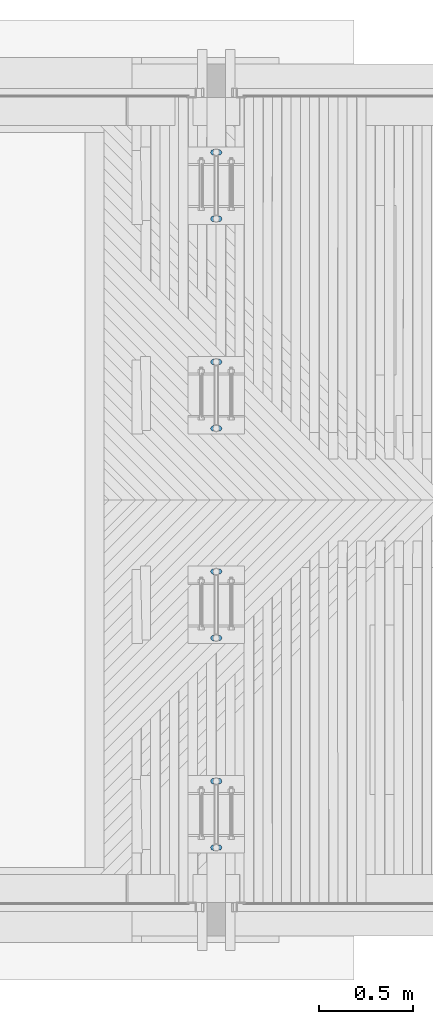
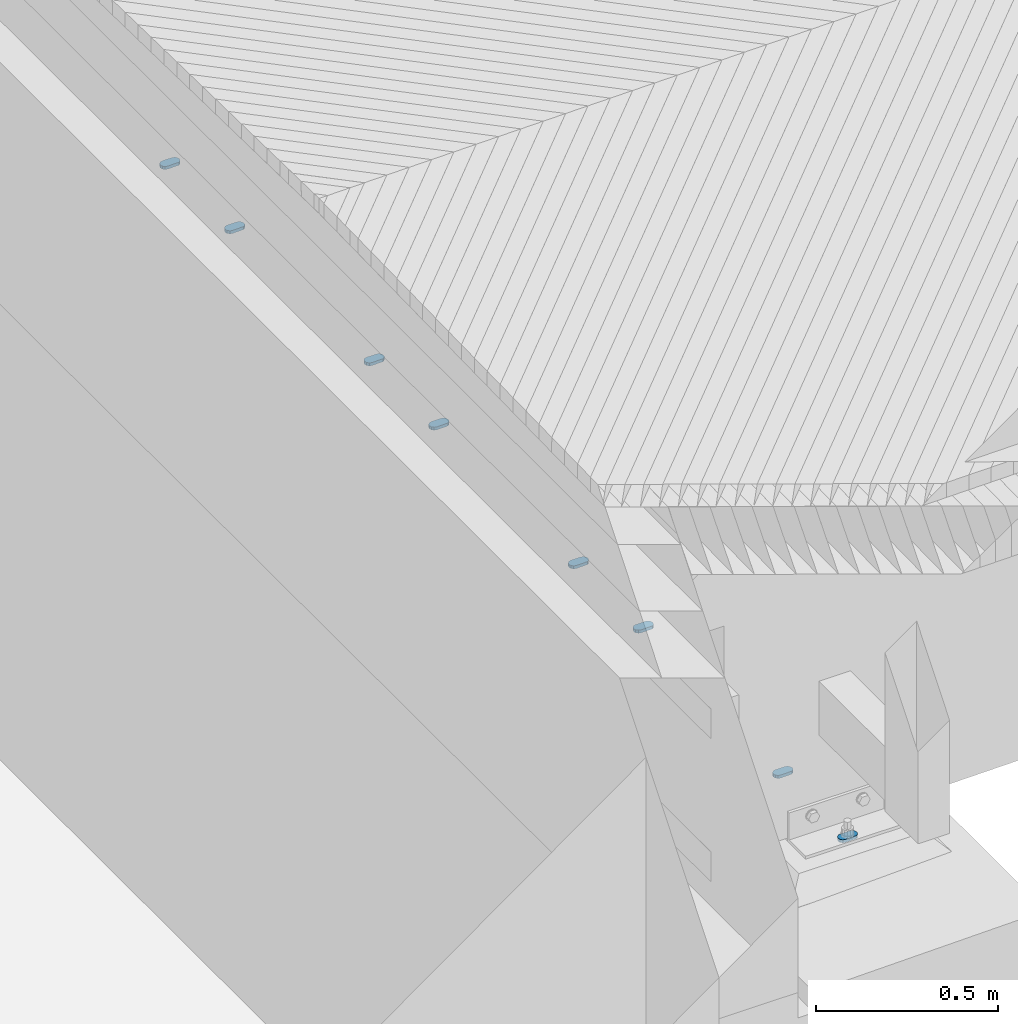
# One storey, part 5 of 65: 8 mechanical fasteners.
"""IFC2X3 building model written with IfcOpenShell, lengths in millimetres."""

from ifc_helpers import new_model, si_unit, frame, origin_with_axes, place, context, subcontext, project, spatial, faceted_brep, source, transform, mapped, material, type_object, element, save


model = new_model("IFC2X3")

# Units and contexts
model_context = context("Model", 3, precision=1e-05, world=origin_with_axes())
body_context = subcontext(model_context, "Body", "Model", "MODEL_VIEW")
ifc_project = project(units=[si_unit("LENGTHUNIT", "METRE", prefix="MILLI"), si_unit("AREAUNIT", "SQUARE_METRE"), si_unit("VOLUMEUNIT", "CUBIC_METRE"), si_unit("MASSUNIT", "GRAM", prefix="KILO"), si_unit("TIMEUNIT", "SECOND"), si_unit("PLANEANGLEUNIT", "RADIAN"), si_unit("SOLIDANGLEUNIT", "STERADIAN"), si_unit("THERMODYNAMICTEMPERATUREUNIT", "DEGREE_CELSIUS"), si_unit("LUMINOUSINTENSITYUNIT", "LUMEN")], contexts=[model_context])

# Site, building, storey
site_placement = place(None, origin_with_axes())
site = spatial("IfcSite", under=ifc_project, at=site_placement, Name="Undefined", CompositionType="ELEMENT")
building_placement = place(site_placement, origin_with_axes())
building = spatial("IfcBuilding", under=site, at=building_placement, Name="Undefined", CompositionType="ELEMENT")
storey_placement = place(building_placement, origin_with_axes())
storey = spatial("IfcBuildingStorey", under=building, at=storey_placement, Name="Undefined", CompositionType="ELEMENT", Elevation=0.0)

# Mechanical fasteners
ifc_material = material(Name="Undefined")
mechanical_fastener_type = type_object("IfcMechanicalFastenerType", Name="Bolt assembly")
shared_shape = source(origin_with_axes(), body_context, "Body", "Brep", [
    faceted_brep([(30.0, -9.99999999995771, 0.0), (28.8581929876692, -9.99999999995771, 5.7402514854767), (25.6066017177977, -9.99999999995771, 10.6066017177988), (20.7402514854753, -9.99999999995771, 13.8581929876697), (-15.0000000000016, -9.99999999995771, 15.0), (-22.5000000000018, -9.99999999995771, 12.9903810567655), (-27.9903810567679, -9.99999999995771, 7.49999999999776), (-30.0, -9.99999999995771, -3.10900794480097e-12), (-27.9903810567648, -9.99999999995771, -7.50000000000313), (-22.4999999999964, -9.99999999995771, -12.9903810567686), (-14.9999999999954, -9.99999999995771, -15.0), (15.0000000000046, -9.99999999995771, -15.0), (22.5000000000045, -9.99999999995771, -12.990381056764), (27.9903810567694, -9.99999999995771, -7.49999999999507), (30.0, 0.100000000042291, 0.0), (27.9903810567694, 0.100000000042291, -7.49999999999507), (22.5000000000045, 0.100000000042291, -12.990381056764), (15.0000000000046, 0.100000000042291, -15.0), (-14.9999999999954, 0.100000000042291, -15.0), (-22.4999999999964, 0.100000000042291, -12.9903810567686), (-27.9903810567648, 0.100000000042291, -7.50000000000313), (-30.0, 0.100000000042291, -3.10900794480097e-12), (-27.9903810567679, 0.100000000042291, 7.49999999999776), (-22.5000000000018, 0.100000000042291, 12.9903810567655), (-15.0000000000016, 0.100000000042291, 15.0), (20.7402514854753, 0.100000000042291, 13.8581929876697), (25.6066017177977, 0.100000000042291, 10.6066017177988), (28.8581929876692, 0.100000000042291, 5.7402514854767)], [[[0, 1, 2, 3, 4, 5, 6, 7, 8, 9, 10, 11, 12, 13]], [[14, 15, 16, 17, 18, 19, 20, 21, 22, 23, 24, 25, 26, 27]], [[0, 14, 27, 1]], [[1, 27, 26, 2]], [[2, 26, 25, 3]], [[3, 25, 24, 4]], [[4, 24, 23, 5]], [[5, 23, 22, 6]], [[6, 22, 21, 7]], [[7, 21, 20, 8]], [[8, 20, 19, 9]], [[9, 19, 18, 10]], [[10, 18, 17, 11]], [[11, 17, 16, 12]], [[12, 16, 15, 13]], [[13, 15, 14, 0]]]),
])
for number, where, z_axis, x_axis, name in (
    (1, (0.0, 22747.5000000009, 2007.32999999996), (0.0, -1.0, 0.0), (1.0, 0.0, 0.0), "Bolt assembly"),
    (2, (0.0, 23102.5000000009, 2007.32999999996), (0.0, -1.0, 0.0), (1.0, 0.0, 0.0), "Bolt assembly"),
    (3, (0.0, 23867.5000000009, 1985.32999999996), (0.0, -1.0, 0.0), (1.0, 0.0, 0.0), "Bolt assembly"),
    (4, (0.0, 24222.5000000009, 1985.32999999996), (0.0, -1.0, 0.0), (1.0, 0.0, 0.0), "Bolt assembly"),
    (5, (0.0, 21982.5, 2007.32999999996), (0.0, -1.0, 0.0), (1.0, 0.0, 0.0), "Bolt assembly"),
    (6, (0.0, 21627.5, 2007.32999999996), (0.0, -1.0, 0.0), (1.0, 0.0, 0.0), "Bolt assembly"),
    (7, (0.0, 20862.5, 1985.32999999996), (0.0, -1.0, 0.0), (1.0, 0.0, 0.0), "Bolt assembly"),
    (8, (0.0, 20507.5, 1985.32999999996), (0.0, -1.0, 0.0), (1.0, 0.0, 0.0), "Bolt assembly"),
):
    element("IfcMechanicalFastener", number, at=place(storey_placement, frame(where, z_axis=z_axis, x_axis=x_axis)), inside=storey, type_object=mechanical_fastener_type, material=ifc_material, Name=name, NominalDiameter=20.0, NominalLength=30.0, context=body_context, shape_type="MappedRepresentation", body=[
        mapped(shared_shape, transform((0.0, 0.0, 0.0))),
    ])

save(model, "model.ifc")
